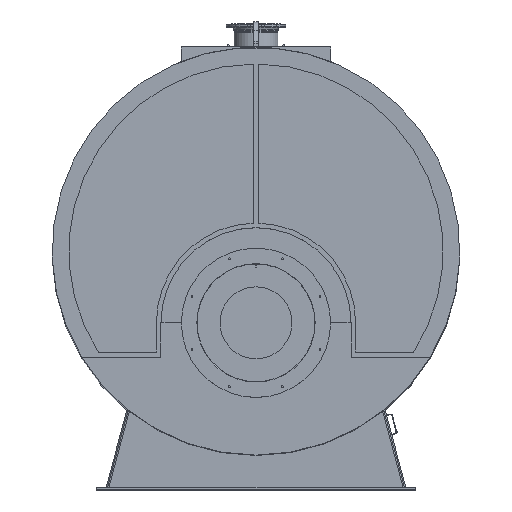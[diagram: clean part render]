
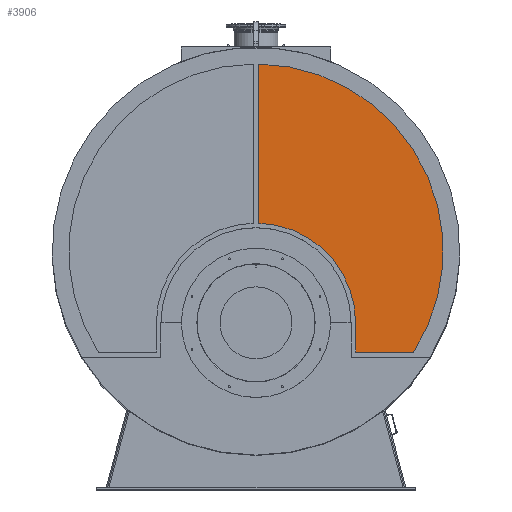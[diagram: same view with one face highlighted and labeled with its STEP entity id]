
A CAD part, top view. The second image highlights one B-rep face of the part: STEP entity #3906.
In plain terms, the highlighted planar face has unit normal (0, 0, 1).
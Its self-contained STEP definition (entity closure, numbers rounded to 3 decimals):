
#3719=CARTESIAN_POINT('',(739.5,-749.,373.));
#3720=VERTEX_POINT('',#3719);
#3728=CARTESIAN_POINT('',(1154.591,-749.,373.));
#3729=VERTEX_POINT('',#3728);
#3736=CARTESIAN_POINT('',(739.5,-749.,373.));
#3737=DIRECTION('',(1.,0.,-0.));
#3738=VECTOR('',#3737,415.091);
#3739=LINE('',#3736,#3738);
#3740=EDGE_CURVE('',#3720,#3729,#3739,.T.);
#3752=CARTESIAN_POINT('',(1159.636,-746.247,373.));
#3753=VERTEX_POINT('',#3752);
#3760=CARTESIAN_POINT('',(1154.591,-743.,373.));
#3761=DIRECTION('',(0.,0.,1.));
#3762=DIRECTION('',(1.,0.,-0.));
#3763=AXIS2_PLACEMENT_3D('',#3760,#3761,#3762);
#3764=CIRCLE('',#3763,6.);
#3765=EDGE_CURVE('',#3729,#3753,#3764,.T.);
#3777=CARTESIAN_POINT('',(21.092,1378.839,373.));
#3778=VERTEX_POINT('',#3777);
#3785=CARTESIAN_POINT('',(0.,0.,373.));
#3786=DIRECTION('',(0.,0.,1.));
#3787=DIRECTION('',(1.,0.,-0.));
#3788=AXIS2_PLACEMENT_3D('',#3785,#3786,#3787);
#3789=CIRCLE('',#3788,1379.);
#3790=EDGE_CURVE('',#3753,#3778,#3789,.T.);
#3802=CARTESIAN_POINT('',(15.,1372.839,373.));
#3803=VERTEX_POINT('',#3802);
#3810=CARTESIAN_POINT('',(21.,1372.839,373.));
#3811=DIRECTION('',(0.,0.,1.));
#3812=DIRECTION('',(1.,0.,-0.));
#3813=AXIS2_PLACEMENT_3D('',#3810,#3811,#3812);
#3814=CIRCLE('',#3813,6.);
#3815=EDGE_CURVE('',#3778,#3803,#3814,.T.);
#3827=CARTESIAN_POINT('',(15.,211.702,373.));
#3828=VERTEX_POINT('',#3827);
#3835=CARTESIAN_POINT('',(15.,1372.839,373.));
#3836=DIRECTION('',(-0.,-1.,0.));
#3837=VECTOR('',#3836,1161.138);
#3838=LINE('',#3835,#3837);
#3839=EDGE_CURVE('',#3803,#3828,#3838,.T.);
#3851=CARTESIAN_POINT('',(20.83,205.704,373.));
#3852=VERTEX_POINT('',#3851);
#3859=CARTESIAN_POINT('',(21.,211.702,373.));
#3860=DIRECTION('',(0.,0.,1.));
#3861=DIRECTION('',(1.,0.,-0.));
#3862=AXIS2_PLACEMENT_3D('',#3859,#3860,#3861);
#3863=CIRCLE('',#3862,6.);
#3864=EDGE_CURVE('',#3828,#3852,#3863,.T.);
#3869=CARTESIAN_POINT('',(-697.,314.92,373.));
#3870=DIRECTION('',(0.,0.,1.));
#3871=DIRECTION('',(1.,0.,0.));
#3872=AXIS2_PLACEMENT_3D('',#3869,#3870,#3871);
#3873=PLANE('',#3872);
#3874=CARTESIAN_POINT('',(733.5,-743.,373.));
#3875=VERTEX_POINT('',#3874);
#3876=CARTESIAN_POINT('',(739.5,-743.,373.));
#3877=DIRECTION('',(0.,0.,1.));
#3878=DIRECTION('',(1.,0.,-0.));
#3879=AXIS2_PLACEMENT_3D('',#3876,#3877,#3878);
#3880=CIRCLE('',#3879,6.);
#3881=EDGE_CURVE('',#3875,#3720,#3880,.T.);
#3882=ORIENTED_EDGE('',*,*,#3881,.T.);
#3883=ORIENTED_EDGE('',*,*,#3740,.T.);
#3884=ORIENTED_EDGE('',*,*,#3765,.T.);
#3885=ORIENTED_EDGE('',*,*,#3790,.T.);
#3886=ORIENTED_EDGE('',*,*,#3815,.T.);
#3887=ORIENTED_EDGE('',*,*,#3839,.T.);
#3888=ORIENTED_EDGE('',*,*,#3864,.T.);
#3889=CARTESIAN_POINT('',(733.5,-527.5,373.));
#3890=VERTEX_POINT('',#3889);
#3891=CARTESIAN_POINT('',(0.,-527.5,373.));
#3892=DIRECTION('',(0.,0.,-1.));
#3893=DIRECTION('',(1.,0.,0.));
#3894=AXIS2_PLACEMENT_3D('',#3891,#3892,#3893);
#3895=CIRCLE('',#3894,733.5);
#3896=EDGE_CURVE('',#3852,#3890,#3895,.T.);
#3897=ORIENTED_EDGE('',*,*,#3896,.T.);
#3898=CARTESIAN_POINT('',(733.5,-527.5,373.));
#3899=DIRECTION('',(0.,-1.,0.));
#3900=VECTOR('',#3899,215.5);
#3901=LINE('',#3898,#3900);
#3902=EDGE_CURVE('',#3890,#3875,#3901,.T.);
#3903=ORIENTED_EDGE('',*,*,#3902,.T.);
#3904=EDGE_LOOP('',(#3882,#3883,#3884,#3885,#3886,#3887,#3888,#3897,#3903));
#3905=FACE_BOUND('',#3904,.T.);
#3906=ADVANCED_FACE('',(#3905),#3873,.T.);
